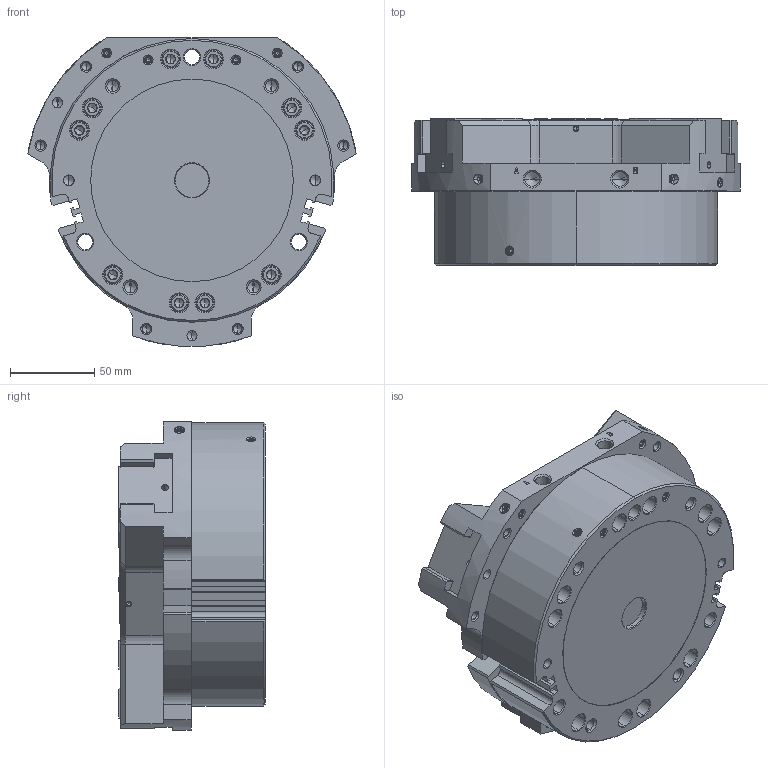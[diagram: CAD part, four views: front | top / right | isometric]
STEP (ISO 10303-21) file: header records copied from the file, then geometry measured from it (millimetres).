
FILE_DESCRIPTION (( 'STEP AP214' ), '1' );
FILE_NAME ('NTS317-HCL.STEP', '2025-01-10T03:17:47', ( '' ), ( '' ), 'SwSTEP 2.0', 'SolidWorks 2022', '' );
FILE_SCHEMA (( 'AUTOMOTIVE_DESIGN' ));
Length unit declared in the file: millimetre
Products named in the file (8): REAR BODY^HP-NTS317; BOLT^HP-NTS317; MASTER JAW^HP-NTS317; BODY^HP-NTS317; S-TOME^HP-NTS317; S-SARA^HP-NTS317; NTS317-HCL; COVER^HP-NTS317
Assembly tree (27 placements, depth 2):
  NTS317-HCL
    BODY^HP-NTS317
    REAR BODY^HP-NTS317
    MASTER JAW^HP-NTS317  x3
    COVER^HP-NTS317
    BOLT^HP-NTS317  x10
    S-TOME^HP-NTS317  x8
    S-SARA^HP-NTS317  x3
Bounding box: 194.47 x 87 x 182.77 mm (x, y, z)
Volume: 1679726.5 mm3; surface area: 250689 mm2
Topology: 27 solids, 27 shells, 2145 faces, 5710 edges, 3643 vertices
Faces by surface type: plane 1349, cone 374, cylinder 311, bspline 105, torus 6
Entity records: 57670 total; most frequent: CARTESIAN_POINT 15237, ORIENTED_EDGE 8952, DIRECTION 7904, EDGE_CURVE 4476, LINE 3614, VECTOR 3614, VERTEX_POINT 2922, AXIS2_PLACEMENT_3D 2145
